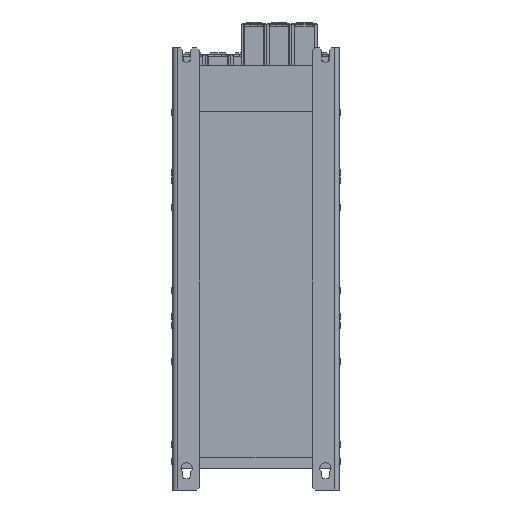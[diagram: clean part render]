
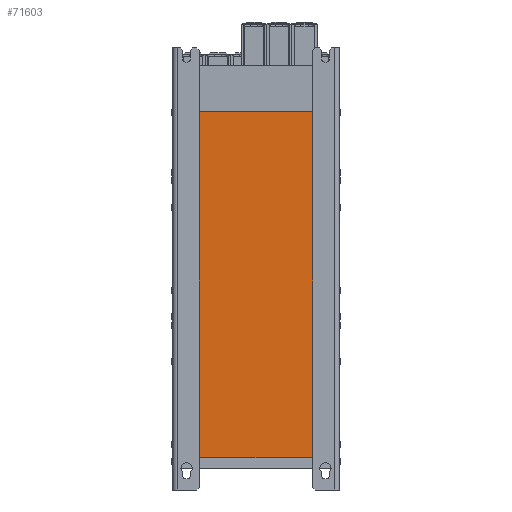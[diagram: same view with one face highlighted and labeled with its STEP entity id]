
A CAD part, front view. The second image highlights one B-rep face of the part: STEP entity #71603.
In plain terms, the highlighted planar face has unit normal (0, -1, 0).
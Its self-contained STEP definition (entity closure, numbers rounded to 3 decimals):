
#11 = CARTESIAN_POINT ( 'NONE',  ( 155.9, -125., 400. ) ) ;
#251 = CARTESIAN_POINT ( 'NONE',  ( -203.788, -125., -185. ) ) ;
#767 = LINE ( 'NONE', #6690, #1504 ) ;
#1208 = LINE ( 'NONE', #251, #62946 ) ;
#1504 = VECTOR ( 'NONE', #49429, 1000. ) ;
#2132 = EDGE_CURVE ( 'NONE', #74840, #85813, #29706, .T. ) ;
#6690 = CARTESIAN_POINT ( 'NONE',  ( 156., -125., 403.5 ) ) ;
#6764 = PLANE ( 'NONE',  #90076 ) ;
#7316 = CARTESIAN_POINT ( 'NONE',  ( -155.9, -125., 500. ) ) ;
#7851 = VECTOR ( 'NONE', #32370, 1000. ) ;
#8462 = DIRECTION ( 'NONE',  ( 0., 0., -1. ) ) ;
#9228 = CARTESIAN_POINT ( 'NONE',  ( -153., -125., -185. ) ) ;
#9910 = LINE ( 'NONE', #89157, #7851 ) ;
#10710 = ORIENTED_EDGE ( 'NONE', *, *, #53589, .T. ) ;
#12461 = EDGE_CURVE ( 'NONE', #88022, #77309, #62217, .T. ) ;
#12536 = CARTESIAN_POINT ( 'NONE',  ( 156., -125., 403.5 ) ) ;
#13255 = ORIENTED_EDGE ( 'NONE', *, *, #25068, .T. ) ;
#13615 = DIRECTION ( 'NONE',  ( 0., 0., 1. ) ) ;
#14770 = DIRECTION ( 'NONE',  ( 1., 0., 0. ) ) ;
#14919 = CARTESIAN_POINT ( 'NONE',  ( 155.9, -125., 403.5 ) ) ;
#15090 = DIRECTION ( 'NONE',  ( 0., 0., 1. ) ) ;
#15185 = CARTESIAN_POINT ( 'NONE',  ( 153., -125., 400. ) ) ;
#15356 = VERTEX_POINT ( 'NONE', #15185 ) ;
#16123 = ORIENTED_EDGE ( 'NONE', *, *, #58383, .T. ) ;
#17332 = CARTESIAN_POINT ( 'NONE',  ( -155.9, -125., 500. ) ) ;
#17848 = ORIENTED_EDGE ( 'NONE', *, *, #80835, .T. ) ;
#18557 = DIRECTION ( 'NONE',  ( -1., 0., 0. ) ) ;
#18780 = VECTOR ( 'NONE', #87394, 1000. ) ;
#18788 = ORIENTED_EDGE ( 'NONE', *, *, #80463, .T. ) ;
#19525 = VERTEX_POINT ( 'NONE', #83269 ) ;
#22408 = VERTEX_POINT ( 'NONE', #62284 ) ;
#22419 = EDGE_CURVE ( 'NONE', #91458, #53233, #55255, .T. ) ;
#22425 = VECTOR ( 'NONE', #89505, 1000. ) ;
#22640 = EDGE_CURVE ( 'NONE', #15356, #19525, #41005, .T. ) ;
#23436 = LINE ( 'NONE', #60066, #28588 ) ;
#24236 = CARTESIAN_POINT ( 'NONE',  ( 155.9, -125., 500. ) ) ;
#25068 = EDGE_CURVE ( 'NONE', #51540, #69637, #23436, .T. ) ;
#25075 = EDGE_CURVE ( 'NONE', #78369, #51540, #65253, .T. ) ;
#28292 = CARTESIAN_POINT ( 'NONE',  ( -159.4, -125., 500. ) ) ;
#28588 = VECTOR ( 'NONE', #8462, 1000. ) ;
#29706 = LINE ( 'NONE', #28292, #18780 ) ;
#29861 = ORIENTED_EDGE ( 'NONE', *, *, #25075, .T. ) ;
#32370 = DIRECTION ( 'NONE',  ( 1., 0., 0. ) ) ;
#32775 = ORIENTED_EDGE ( 'NONE', *, *, #12461, .T. ) ;
#34422 = FACE_OUTER_BOUND ( 'NONE', #43886, .T. ) ;
#34927 = EDGE_CURVE ( 'NONE', #77309, #22408, #1208, .T. ) ;
#35722 = CARTESIAN_POINT ( 'NONE',  ( 153., -125., -400. ) ) ;
#38345 = ORIENTED_EDGE ( 'NONE', *, *, #68027, .T. ) ;
#41005 = LINE ( 'NONE', #89794, #86866 ) ;
#43886 = EDGE_LOOP ( 'NONE', ( #32775, #63361, #38345, #81885, #18788, #87584, #17848, #92002, #10710, #29861, #13255, #16123 ) ) ;
#49034 = DIRECTION ( 'NONE',  ( 0., 0., 1. ) ) ;
#49429 = DIRECTION ( 'NONE',  ( 0., 0., 1. ) ) ;
#50057 = DIRECTION ( 'NONE',  ( 0., 0., -1. ) ) ;
#50499 = VECTOR ( 'NONE', #50057, 1000. ) ;
#51540 = VERTEX_POINT ( 'NONE', #55888 ) ;
#53233 = VERTEX_POINT ( 'NONE', #14919 ) ;
#53589 = EDGE_CURVE ( 'NONE', #85813, #78369, #85637, .T. ) ;
#55255 = LINE ( 'NONE', #12536, #22425 ) ;
#55888 = CARTESIAN_POINT ( 'NONE',  ( -156., -125., 403.5 ) ) ;
#57087 = VECTOR ( 'NONE', #18557, 1000. ) ;
#58383 = EDGE_CURVE ( 'NONE', #69637, #88022, #9910, .T. ) ;
#60066 = CARTESIAN_POINT ( 'NONE',  ( -156., -125., 403.5 ) ) ;
#62217 = LINE ( 'NONE', #90815, #79193 ) ;
#62284 = CARTESIAN_POINT ( 'NONE',  ( 153., -125., -185. ) ) ;
#62946 = VECTOR ( 'NONE', #14770, 1000. ) ;
#63361 = ORIENTED_EDGE ( 'NONE', *, *, #34927, .T. ) ;
#64299 = LINE ( 'NONE', #11, #85432 ) ;
#65253 = LINE ( 'NONE', #65698, #57087 ) ;
#65698 = CARTESIAN_POINT ( 'NONE',  ( 156., -125., 403.5 ) ) ;
#68027 = EDGE_CURVE ( 'NONE', #22408, #15356, #78877, .T. ) ;
#69637 = VERTEX_POINT ( 'NONE', #75069 ) ;
#71603 = ADVANCED_FACE ( 'NONE', ( #34422 ), #6764, .F. ) ;
#71939 = CARTESIAN_POINT ( 'NONE',  ( 156., -125., 403.5 ) ) ;
#74840 = VERTEX_POINT ( 'NONE', #24236 ) ;
#75069 = CARTESIAN_POINT ( 'NONE',  ( -156., -125., 400. ) ) ;
#77309 = VERTEX_POINT ( 'NONE', #9228 ) ;
#78369 = VERTEX_POINT ( 'NONE', #91205 ) ;
#78877 = LINE ( 'NONE', #35722, #84934 ) ;
#79193 = VECTOR ( 'NONE', #81481, 1000. ) ;
#80463 = EDGE_CURVE ( 'NONE', #19525, #91458, #767, .T. ) ;
#80835 = EDGE_CURVE ( 'NONE', #53233, #74840, #64299, .T. ) ;
#81481 = DIRECTION ( 'NONE',  ( 0., 0., -1. ) ) ;
#81885 = ORIENTED_EDGE ( 'NONE', *, *, #22640, .T. ) ;
#83269 = CARTESIAN_POINT ( 'NONE',  ( 156., -125., 400. ) ) ;
#84635 = CARTESIAN_POINT ( 'NONE',  ( -144., -125., 400. ) ) ;
#84934 = VECTOR ( 'NONE', #15090, 1000. ) ;
#85432 = VECTOR ( 'NONE', #13615, 1000. ) ;
#85637 = LINE ( 'NONE', #7316, #50499 ) ;
#85813 = VERTEX_POINT ( 'NONE', #17332 ) ;
#86866 = VECTOR ( 'NONE', #91629, 1000. ) ;
#87394 = DIRECTION ( 'NONE',  ( -1., 0., 0. ) ) ;
#87584 = ORIENTED_EDGE ( 'NONE', *, *, #22419, .T. ) ;
#88022 = VERTEX_POINT ( 'NONE', #90291 ) ;
#89157 = CARTESIAN_POINT ( 'NONE',  ( 156., -125., 400. ) ) ;
#89505 = DIRECTION ( 'NONE',  ( -1., 0., 0. ) ) ;
#89794 = CARTESIAN_POINT ( 'NONE',  ( 156., -125., 400. ) ) ;
#90076 = AXIS2_PLACEMENT_3D ( 'NONE', #84635, #90307, #49034 ) ;
#90291 = CARTESIAN_POINT ( 'NONE',  ( -153., -125., 400. ) ) ;
#90307 = DIRECTION ( 'NONE',  ( 0., 1., 0. ) ) ;
#90815 = CARTESIAN_POINT ( 'NONE',  ( -153., -125., 400. ) ) ;
#91205 = CARTESIAN_POINT ( 'NONE',  ( -155.9, -125., 403.5 ) ) ;
#91458 = VERTEX_POINT ( 'NONE', #71939 ) ;
#91629 = DIRECTION ( 'NONE',  ( 1., 0., 0. ) ) ;
#92002 = ORIENTED_EDGE ( 'NONE', *, *, #2132, .T. ) ;
